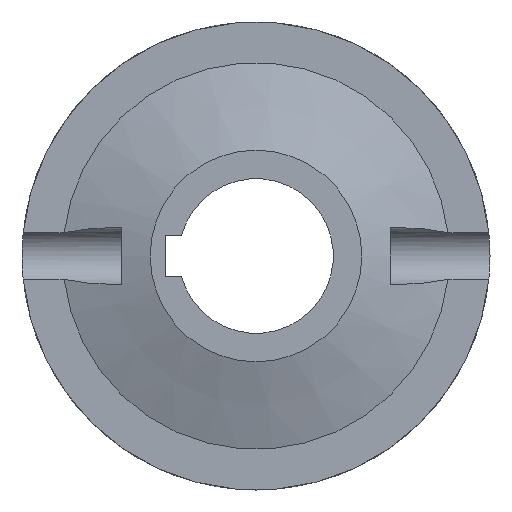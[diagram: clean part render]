
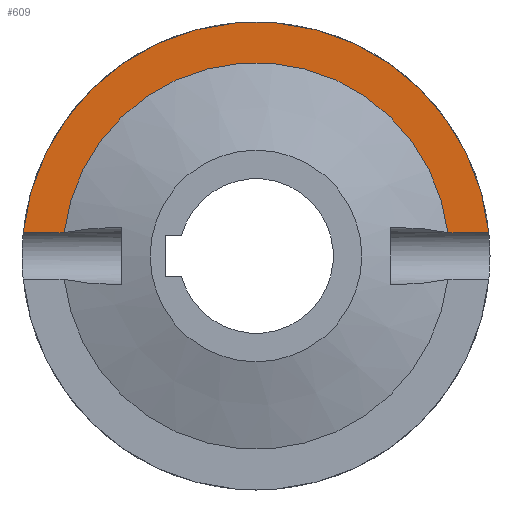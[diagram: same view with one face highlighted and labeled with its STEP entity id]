
A CAD part, front view. The second image highlights one B-rep face of the part: STEP entity #609.
In plain terms, the highlighted planar face has unit normal (0, -1, 0).
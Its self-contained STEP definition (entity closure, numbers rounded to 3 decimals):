
#609 = ADVANCED_FACE( '', ( #1274 ), #1275, .T. );
#1274 = FACE_OUTER_BOUND( '', #2097, .T. );
#1275 = PLANE( '', #2098 );
#2097 = EDGE_LOOP( '', ( #3525, #3526, #3527, #3528 ) );
#2098 = AXIS2_PLACEMENT_3D( '', #3529, #3530, #3531 );
#3525 = ORIENTED_EDGE( '', *, *, #3802, .T. );
#3526 = ORIENTED_EDGE( '', *, *, #4267, .F. );
#3527 = ORIENTED_EDGE( '', *, *, #4022, .F. );
#3528 = ORIENTED_EDGE( '', *, *, #4193, .T. );
#3529 = CARTESIAN_POINT( '', ( -57.899, 0., 57.811 ) );
#3530 = DIRECTION( '', ( 0., -1., 0. ) );
#3531 = DIRECTION( '', ( 0., 0., -1. ) );
#3802 = EDGE_CURVE( '', #4482, #4479, #4483, .T. );
#4022 = EDGE_CURVE( '', #4823, #4825, #4826, .F. );
#4193 = EDGE_CURVE( '', #4823, #4482, #5058, .T. );
#4267 = EDGE_CURVE( '', #4825, #4479, #5144, .T. );
#4479 = VERTEX_POINT( '', #5407 );
#4482 = VERTEX_POINT( '', #5435 );
#4483 = CIRCLE( '', #5436, 57.5 );
#4823 = VERTEX_POINT( '', #5941 );
#4825 = VERTEX_POINT( '', #5950 );
#4826 = CIRCLE( '', #5951, 47.5 );
#5058 = LINE( '', #6293, #6294 );
#5144 = LINE( '', #6407, #6408 );
#5407 = CARTESIAN_POINT( '', ( -57.212, 0., 5.745 ) );
#5435 = CARTESIAN_POINT( '', ( 57.212, 0., 5.745 ) );
#5436 = AXIS2_PLACEMENT_3D( '', #6617, #6618, #6619 );
#5941 = CARTESIAN_POINT( '', ( 47.151, 0., 5.745 ) );
#5950 = CARTESIAN_POINT( '', ( -47.151, 0., 5.745 ) );
#5951 = AXIS2_PLACEMENT_3D( '', #6870, #6871, #6872 );
#6293 = CARTESIAN_POINT( '', ( -57.899, 0., 5.745 ) );
#6294 = VECTOR( '', #7073, 1000. );
#6407 = CARTESIAN_POINT( '', ( -33., 0., 5.745 ) );
#6408 = VECTOR( '', #7128, 1000. );
#6617 = CARTESIAN_POINT( '', ( 0., 0., 0. ) );
#6618 = DIRECTION( '', ( 0., -1., 0. ) );
#6619 = DIRECTION( '', ( 1., 0., 0. ) );
#6870 = CARTESIAN_POINT( '', ( 0., 0., 0. ) );
#6871 = DIRECTION( '', ( 0., 1., 0. ) );
#6872 = DIRECTION( '', ( -1., 0., 0. ) );
#7073 = DIRECTION( '', ( 1., 0., 0. ) );
#7128 = DIRECTION( '', ( -1., 0., 0. ) );
